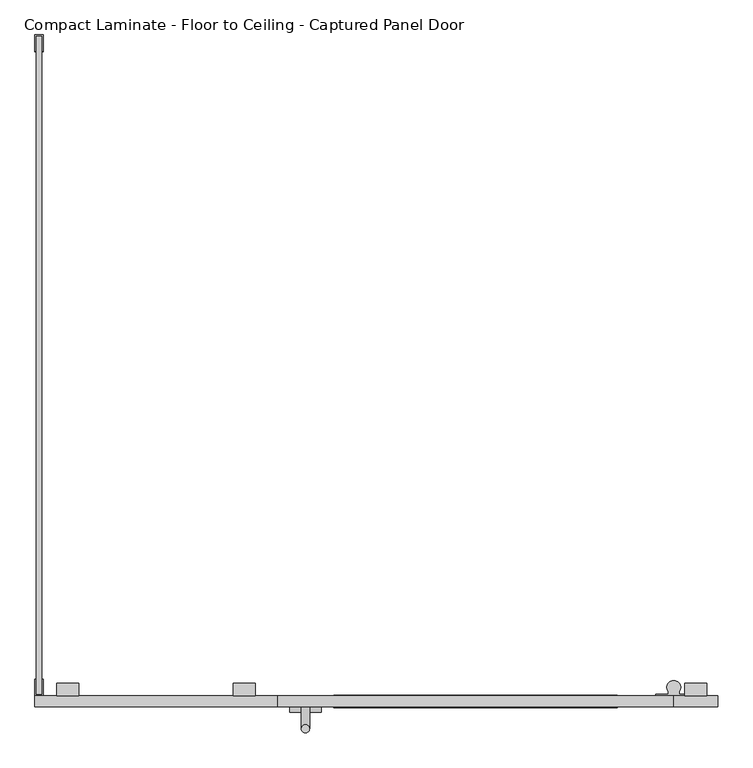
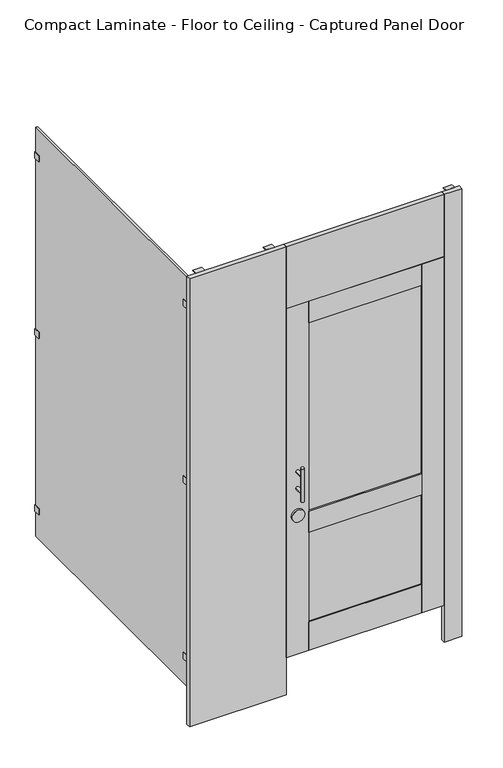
"""IFC4 building model written with IfcOpenShell, lengths in millimetres: proxy geometry, Toilet-Partition_Ironwood-Mfg_Compact-Laminate : Compact Laminate - Floor to Ceiling - Captured Panel Door."""

from ifc_helpers import new_model, si_unit, point, frame, frame_2d, origin, place, context, project, spatial, polyline, circle_curve, ellipse_curve, trimmed, segment, composite_curve, outline, extrude, source, transform, mapped, element, save
from ifc_brep_helpers import plane_surface, cylinder_surface, advanced_brep


def compact_laminate_floor_to_ceiling_captured_panel_door_c3280af2(model_context):
    return source(origin(), model_context, "Body", "SolidModel", [
        extrude(outline(polyline([(-1524.0, 2673.35), (-1524.0, 2743.2), (-1495.425, 2743.2), (-1495.425, 2740.025), (-1520.825, 2740.025), (-1520.825, 2673.35), (-1524.0, 2673.35)])), frame((723.9, 0.0, 0.0), z_axis=(1.0, 0.0, 0.0), x_axis=(0.0, 1.0, 0.0)), (0.0, 0.0, 1.0), 50.8),
        extrude(outline(polyline([(-1524.0, 69.85), (-1520.825, 69.85), (-1520.825, 3.175), (-1495.425, 3.175), (-1495.425, 0.0), (-1524.0, 0.0), (-1524.0, 69.85)])), frame((723.9, 0.0, 0.0), z_axis=(1.0, 0.0, 0.0), x_axis=(0.0, 1.0, 0.0)), (0.0, 0.0, 1.0), 50.8),
        extrude(outline(polyline([(800.1, -1524.0), (800.1, -1549.4), (698.5, -1549.4), (698.5, -1524.0), (800.1, -1524.0)])), frame((0.0, 0.0, 3.302), z_axis=(0.0, 0.0, 1.0), x_axis=(1.0, 0.0, 0.0)), (0.0, 0.0, 1.0), 2739.898),
        extrude(outline(polyline([(-1524.0, 2673.35), (-1524.0, 2743.2), (-1495.425, 2743.2), (-1495.425, 2740.025), (-1520.825, 2740.025), (-1520.825, 2673.35), (-1524.0, 2673.35)])), frame((-723.9, 0.0, 0.0), z_axis=(1.0, 0.0, 0.0), x_axis=(0.0, 1.0, 0.0)), (0.0, 0.0, 1.0), 50.8),
        extrude(outline(polyline([(-1524.0, 2673.35), (-1524.0, 2743.2), (-1495.425, 2743.2), (-1495.425, 2740.025), (-1520.825, 2740.025), (-1520.825, 2673.35), (-1524.0, 2673.35)])), frame((-317.5, 0.0, 0.0), z_axis=(1.0, 0.0, 0.0), x_axis=(0.0, 1.0, 0.0)), (0.0, 0.0, 1.0), 50.8),
        extrude(outline(polyline([(-1524.0, 69.85), (-1520.825, 69.85), (-1520.825, 3.175), (-1495.425, 3.175), (-1495.425, 0.0), (-1524.0, 0.0), (-1524.0, 69.85)])), frame((-723.9, 0.0, 0.0), z_axis=(1.0, 0.0, 0.0), x_axis=(0.0, 1.0, 0.0)), (0.0, 0.0, 1.0), 50.8),
        extrude(outline(polyline([(-1524.0, 69.85), (-1520.825, 69.85), (-1520.825, 3.175), (-1495.425, 3.175), (-1495.425, 0.0), (-1524.0, 0.0), (-1524.0, 69.85)])), frame((-317.5, 0.0, 0.0), z_axis=(1.0, 0.0, 0.0), x_axis=(0.0, 1.0, 0.0)), (0.0, 0.0, 1.0), 50.8),
        extrude(outline(polyline([(-774.7, -1524.0), (-215.9, -1524.0), (-215.9, -1549.4), (-774.7, -1549.4), (-774.7, -1524.0)])), frame((0.0, 0.0, 3.302), z_axis=(0.0, 0.0, 1.0), x_axis=(1.0, 0.0, 0.0)), (0.0, 0.0, 1.0), 2739.898),
        extrude(outline(polyline([(568.325, -1543.05), (-85.725, -1543.05), (-85.725, -1530.35), (568.325, -1530.35), (568.325, -1543.05)])), frame((0.0, 0.0, 1081.0875), z_axis=(0.0, 0.0, 1.0), x_axis=(1.0, 0.0, 0.0)), (0.0, 0.0, 1.0), 1150.9375),
        extrude(outline(polyline([(568.325, -1543.05), (-85.725, -1543.05), (-85.725, -1530.35), (568.325, -1530.35), (568.325, -1543.05)])), frame((0.0, 0.0, 403.225), z_axis=(0.0, 0.0, 1.0), x_axis=(1.0, 0.0, 0.0)), (0.0, 0.0, 1.0), 547.6875),
        extrude(outline(polyline([(568.325, -1522.4125), (568.325, -1550.9875), (-85.725, -1550.9875), (-85.725, -1522.4125), (568.325, -1522.4125)])), frame((0.0, 0.0, 950.9125), z_axis=(0.0, 0.0, 1.0), x_axis=(1.0, 0.0, 0.0)), (0.0, 0.0, 1.0), 130.175),
        extrude(outline(polyline([(-85.725, -1524.0), (-85.725, -1549.4), (-215.9, -1549.4), (-215.9, -1524.0), (-85.725, -1524.0)])), frame((0.0, 0.0, 228.6), z_axis=(0.0, 0.0, 1.0), x_axis=(1.0, 0.0, 0.0)), (0.0, 0.0, 1.0), 2133.6),
        extrude(outline(polyline([(568.325, -1524.0), (698.5, -1524.0), (698.5, -1549.4), (568.325, -1549.4), (568.325, -1524.0)])), frame((0.0, 0.0, 228.6), z_axis=(0.0, 0.0, 1.0), x_axis=(1.0, 0.0, 0.0)), (0.0, 0.0, 1.0), 2133.6),
        extrude(outline(polyline([(568.325, -1524.0), (568.325, -1549.4), (-85.725, -1549.4), (-85.725, -1524.0), (568.325, -1524.0)])), frame((0.0, 0.0, 2232.025), z_axis=(0.0, 0.0, 1.0), x_axis=(1.0, 0.0, 0.0)), (0.0, 0.0, 1.0), 130.175),
        extrude(outline(polyline([(568.325, -1524.0), (568.325, -1549.4), (-85.725, -1549.4), (-85.725, -1524.0), (568.325, -1524.0)])), frame((0.0, 0.0, 228.6), z_axis=(0.0, 0.0, 1.0), x_axis=(1.0, 0.0, 0.0)), (0.0, 0.0, 1.0), 174.625),
        extrude(outline(composite_curve([segment(trimmed(circle_curve(frame_2d((1081.0875, -150.8125)), 36.5125), [point((1081.0875, -187.325))], [point((1081.0875, -114.3))], False, "CARTESIAN"), True, "CONTINUOUS"), segment(trimmed(circle_curve(frame_2d((1081.0875, -150.8125)), 36.5125), [point((1081.0875, -114.3))], [point((1081.0875, -187.325))], False, "CARTESIAN"), True, "CONTINUOUS")], self_intersect=False)), frame((0.0, -1562.1, 0.0), z_axis=(0.0, 1.0, 0.0), x_axis=(0.0, 0.0, 1.0)), (0.0, 0.0, 1.0), 12.7),
        advanced_brep(
        [(-160.3375, -1549.4, 1346.2), (-141.2875, -1549.4, 1346.2), (-160.3375, -1549.4, 1244.6), (-141.2875, -1549.4, 1244.6), (-141.2875, -1600.2, 1346.2), (-160.3375, -1600.2, 1346.2), (-141.2875, -1600.2, 1244.6), (-160.3375, -1600.2, 1244.6), (-160.3375, -1600.2, 1397.0), (-141.2875, -1600.2, 1397.0), (-160.3375, -1600.2, 1193.8), (-141.2875, -1600.2, 1193.8)],
        [
            (0, 1, circle_curve(frame((-150.8125, -1549.4, 1346.2), z_axis=(0.0, 1.0, 0.0), x_axis=(1.0, 0.0, 0.0)), 9.525)),
            (1, 0, circle_curve(frame((-150.8125, -1549.4, 1346.2), z_axis=(0.0, 1.0, 0.0), x_axis=(1.0, 0.0, 0.0)), 9.525)),
            (2, 3, circle_curve(frame((-150.8125, -1549.4, 1244.6), z_axis=(0.0, 1.0, 0.0), x_axis=(1.0, 0.0, 0.0)), 9.525)),
            (3, 2, circle_curve(frame((-150.8125, -1549.4, 1244.6), z_axis=(0.0, 1.0, 0.0), x_axis=(1.0, 0.0, 0.0)), 9.525)),
            (1, 4),
            (4, 5, ellipse_curve(frame((-150.8125, -1600.2, 1346.2), z_axis=(0.0, 0.7071067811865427, 0.7071067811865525), x_axis=(0.0, -0.7071067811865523, 0.7071067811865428)), 13.4703842, 9.525)),
            (5, 0),
            (5, 4, ellipse_curve(frame((-150.8125, -1600.2, 1346.2), z_axis=(0.0, 0.7071067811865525, -0.7071067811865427), x_axis=(0.0, -0.7071067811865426, -0.7071067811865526)), 13.4703842, 9.525)),
            (3, 6),
            (6, 7, ellipse_curve(frame((-150.8125, -1600.2, 1244.6), z_axis=(0.0, 0.7071067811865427, 0.7071067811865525), x_axis=(0.0, -0.7071067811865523, 0.7071067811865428)), 13.4703842, 9.525)),
            (7, 2),
            (7, 6, ellipse_curve(frame((-150.8125, -1600.2, 1244.6), z_axis=(0.0, 0.7071067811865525, -0.7071067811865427), x_axis=(0.0, -0.7071067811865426, -0.7071067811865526)), 13.4703842, 9.525)),
            (8, 9, circle_curve(frame((-150.8125, -1600.2, 1397.0), z_axis=(0.0, 0.0, 1.0), x_axis=(1.0, 0.0, 0.0)), 9.525)),
            (9, 8, circle_curve(frame((-150.8125, -1600.2, 1397.0), z_axis=(0.0, 0.0, 1.0), x_axis=(1.0, 0.0, 0.0)), 9.525)),
            (10, 11, circle_curve(frame((-150.8125, -1600.2, 1193.8), z_axis=(0.0, 0.0, -1.0), x_axis=(1.0, 0.0, 0.0)), 9.525)),
            (11, 10, circle_curve(frame((-150.8125, -1600.2, 1193.8), z_axis=(0.0, 0.0, -1.0), x_axis=(1.0, 0.0, 0.0)), 9.525)),
            (8, 5),
            (5, 7),
            (7, 10),
            (11, 6),
            (6, 4),
            (4, 9),
        ],
        [
            plane_surface(frame((-141.2875, -1549.4, 1346.2), z_axis=(0.0, 1.0, 0.0), x_axis=(0.0, 0.0, -1.0))),
            cylinder_surface(frame((-150.8125, -1549.4, 1346.2), z_axis=(0.0, -1.0, 0.0), x_axis=(1.0, 0.0, 0.0)), 9.525),
            cylinder_surface(frame((-150.8125, -1549.4, 1244.6), z_axis=(0.0, -1.0, 0.0), x_axis=(1.0, 0.0, 0.0)), 9.525),
            plane_surface(frame((-141.2875, -1600.2, 1397.0), z_axis=(0.0, 0.0, 1.0), x_axis=(0.0, 1.0, 0.0))),
            plane_surface(frame((-141.2875, -1600.2, 1193.8), z_axis=(0.0, 0.0, -1.0), x_axis=(0.0, -1.0, 0.0))),
            cylinder_surface(frame((-150.8125, -1600.2, 1193.8), z_axis=(0.0, 0.0, 1.0), x_axis=(1.0, 0.0, 0.0)), 9.525),
        ],
        [
            (0, [[1, 2]]),
            (0, [[3, 4]]),
            (1, [[-2, 5, 6, 7]]),
            (1, [[-1, -7, 8, -5]]),
            (2, [[-4, 9, 10, 11]]),
            (2, [[-3, -11, 12, -9]]),
            (3, [[13, 14]]),
            (4, [[15, 16]]),
            (5, [[-13, 17, 18, 19, -16, 20, 21, 22]]),
            (5, [[-14, -22, -8, -17]]),
            (5, [[-15, -19, -10, -20]]),
            (5, [[-18, -6, -21, -12]]),
        ],
    ),
        extrude(outline(composite_curve([segment(polyline([(733.7737081, -1524.0), (657.5737081, -1524.0), (657.5737081, -1520.825), (686.1487081, -1520.825), (686.1487081, -1514.9581331)]), True, "CONTINUOUS"), segment(trimmed(circle_curve(frame_2d((698.5, -1504.8902139)), 15.9347861), [point((686.1487081, -1514.9581331))], [point((710.8512919, -1514.9581331))], False, "CARTESIAN"), True, "CONTINUOUS"), segment(polyline([(710.8512919, -1514.9581331), (710.8512919, -1520.825), (733.7737081, -1520.825), (733.7737081, -1524.0)]), True, "CONTINUOUS")], self_intersect=False)), frame((0.0, 0.0, 2159.0), z_axis=(0.0, 0.0, 1.0), x_axis=(1.0, 0.0, 0.0)), (0.0, 0.0, 1.0), 63.5),
        extrude(outline(composite_curve([segment(polyline([(733.7737081, -1524.0), (657.5737081, -1524.0), (657.5737081, -1520.825), (686.1487081, -1520.825), (686.1487081, -1514.9581331)]), True, "CONTINUOUS"), segment(trimmed(circle_curve(frame_2d((698.5, -1504.8902139)), 15.9347861), [point((686.1487081, -1514.9581331))], [point((710.8512919, -1514.9581331))], False, "CARTESIAN"), True, "CONTINUOUS"), segment(polyline([(710.8512919, -1514.9581331), (710.8512919, -1520.825), (733.7737081, -1520.825), (733.7737081, -1524.0)]), True, "CONTINUOUS")], self_intersect=False)), frame((0.0, 0.0, 1263.6500001), z_axis=(0.0, 0.0, 1.0), x_axis=(1.0, 0.0, 0.0)), (0.0, 0.0, 1.0), 63.5),
        extrude(outline(composite_curve([segment(polyline([(733.7737081, -1524.0), (657.5737081, -1524.0), (657.5737081, -1520.825), (686.1487081, -1520.825), (686.1487081, -1514.9581331)]), True, "CONTINUOUS"), segment(trimmed(circle_curve(frame_2d((698.5, -1504.8902139)), 15.9347861), [point((686.1487081, -1514.9581331))], [point((710.8512919, -1514.9581331))], False, "CARTESIAN"), True, "CONTINUOUS"), segment(polyline([(710.8512919, -1514.9581331), (710.8512919, -1520.825), (733.7737081, -1520.825), (733.7737081, -1524.0)]), True, "CONTINUOUS")], self_intersect=False)), frame((0.0, 0.0, 368.3), z_axis=(0.0, 0.0, 1.0), x_axis=(1.0, 0.0, 0.0)), (0.0, 0.0, 1.0), 63.5),
        extrude(outline(polyline([(-771.398, -1485.9), (-771.398, -1520.825), (-758.698, -1520.825), (-758.698, -1485.9), (-755.523, -1485.9), (-755.523, -1524.0), (-774.573, -1524.0), (-774.573, -1485.9), (-771.398, -1485.9)])), frame((0.0, 0.0, 2540.3188137), z_axis=(0.0, 0.0, 1.0), x_axis=(1.0, 0.0, 0.0)), (0.0, 0.0, 1.0), 38.1),
        extrude(outline(polyline([(-771.398, -38.1), (-774.573, -38.1), (-774.573, 0.0), (-755.523, 0.0), (-755.523, -38.1), (-758.698, -38.1), (-758.698, -3.175), (-771.398, -3.175), (-771.398, -38.1)])), frame((0.0, 0.0, 2540.3188137), z_axis=(0.0, 0.0, 1.0), x_axis=(1.0, 0.0, 0.0)), (0.0, 0.0, 1.0), 38.1),
        extrude(outline(polyline([(-771.398, -1485.9), (-771.398, -1520.825), (-758.698, -1520.825), (-758.698, -1485.9), (-755.523, -1485.9), (-755.523, -1524.0), (-774.573, -1524.0), (-774.573, -1485.9), (-771.398, -1485.9)])), frame((0.0, 0.0, 1460.5), z_axis=(0.0, 0.0, 1.0), x_axis=(1.0, 0.0, 0.0)), (0.0, 0.0, 1.0), 38.1),
        extrude(outline(polyline([(-771.398, -38.1), (-774.573, -38.1), (-774.573, 0.0), (-755.523, 0.0), (-755.523, -38.1), (-758.698, -38.1), (-758.698, -3.175), (-771.398, -3.175), (-771.398, -38.1)])), frame((0.0, 0.0, 1460.5), z_axis=(0.0, 0.0, 1.0), x_axis=(1.0, 0.0, 0.0)), (0.0, 0.0, 1.0), 38.1),
        extrude(outline(polyline([(-771.398, -1485.9), (-771.398, -1520.825), (-758.698, -1520.825), (-758.698, -1485.9), (-755.523, -1485.9), (-755.523, -1524.0), (-774.573, -1524.0), (-774.573, -1485.9), (-771.398, -1485.9)])), frame((0.0, 0.0, 381.0), z_axis=(0.0, 0.0, 1.0), x_axis=(1.0, 0.0, 0.0)), (0.0, 0.0, 1.0), 38.1),
        extrude(outline(polyline([(-771.398, -38.1), (-774.573, -38.1), (-774.573, 0.0), (-755.523, 0.0), (-755.523, -38.1), (-758.698, -38.1), (-758.698, -3.175), (-771.398, -3.175), (-771.398, -38.1)])), frame((0.0, 0.0, 381.0), z_axis=(0.0, 0.0, 1.0), x_axis=(1.0, 0.0, 0.0)), (0.0, 0.0, 1.0), 38.1),
        extrude(outline(polyline([(-758.698, -3.175), (-758.698, -1520.825), (-771.398, -1520.825), (-771.398, -3.175), (-758.698, -3.175)])), frame((0.0, 0.0, 228.6), z_axis=(0.0, 0.0, 1.0), x_axis=(1.0, 0.0, 0.0)), (0.0, 0.0, 1.0), 2501.9),
        extrude(outline(polyline([(698.5, -1524.0), (698.5, -1549.4), (-215.9, -1549.4), (-215.9, -1524.0), (698.5, -1524.0)])), frame((0.0, 0.0, 2363.7875), z_axis=(0.0, 0.0, 1.0), x_axis=(1.0, 0.0, 0.0)), (0.0, 0.0, 1.0), 379.4125),
    ])


if __name__ == "__main__":
    model = new_model("IFC4")
    model_context = context("Model", 3, world=origin())
    ifc_project = project(units=[si_unit("LENGTHUNIT", "METRE", prefix="MILLI")], contexts=[model_context])
    site = spatial("IfcSite", under=ifc_project)
    building = spatial("IfcBuilding", under=site)
    placement = place(None, origin())
    compact_laminate_floor_to_ceiling_captured_panel_door_shape = compact_laminate_floor_to_ceiling_captured_panel_door_c3280af2(model_context)
    element("IfcBuildingElementProxy", 1, Name="Toilet-Partition_Ironwood-Mfg_Compact-Laminate : Compact Laminate - Floor to Ceiling - Captured Panel Door", ObjectType="Toilet-Partition_Ironwood-Mfg_Compact-Laminate : Compact Laminate - Floor to Ceiling - Captured Panel Door", at=placement, inside=building, context=model_context, shape_type="MappedRepresentation", body=[
        mapped(compact_laminate_floor_to_ceiling_captured_panel_door_shape, transform((0.0, 0.0, 0.0), x_axis=(1.0, 0.0, 0.0), y_axis=(0.0, 1.0, 0.0), z_axis=(0.0, 0.0, 1.0))),
    ])
    save(model, "model.ifc")
